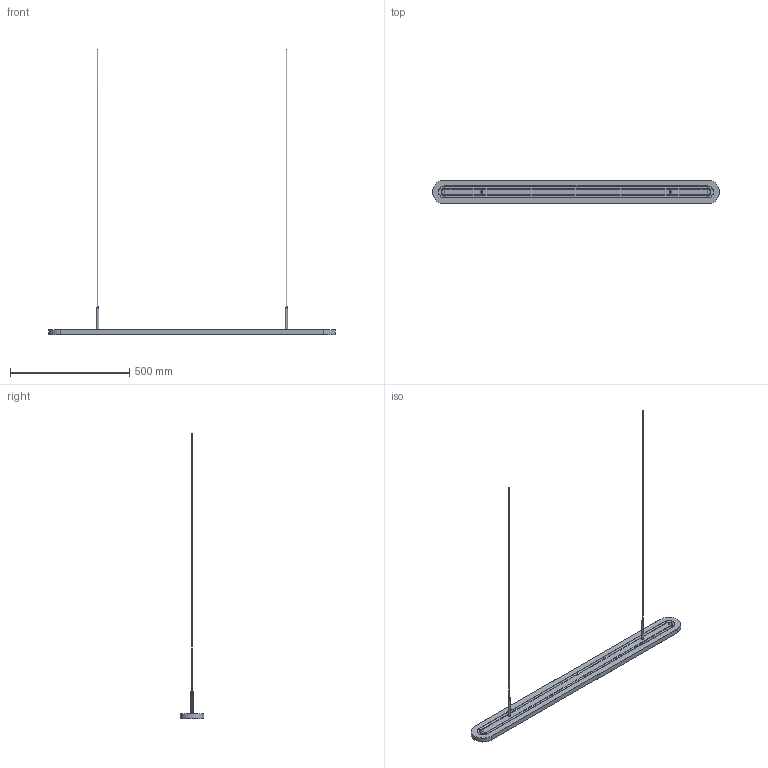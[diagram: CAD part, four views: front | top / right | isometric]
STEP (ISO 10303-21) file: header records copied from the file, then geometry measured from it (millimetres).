
FILE_DESCRIPTION(('HOOPS Exchange Step'),'2;1');
FILE_NAME('/Users/denyssokolov/Library/CloudStorage/GoogleDrive-svoyawork@gmail.com/Мій диск/Objects/PRESENTATION/46_FOG_lighting/NEW/FOG/fog_pill_1200/models/FOG_pill_1200.stp','2025-05-06T10:40:27+03:00',('denyssokolov'),('Unknown organisation'),'HOOPS Exchange 2024.2','HOOPS Exchange','Unknown authorisation');
FILE_SCHEMA( ('AP203_CONFIGURATION_CONTROLLED_3D_DESIGN_OF_MECHANICAL_PARTS_AND_ASSEMBLIES_MIM_LF') );
Length unit declared in the file: millimetre
Products named in the file (1): root
Bounding box: 1200 x 100 x 1193.36 mm (x, y, z)
Volume: 2073480.7 mm3; surface area: 556416.2 mm2
Topology: 5 solids, 13 shells, 481 faces, 1191 edges, 739 vertices
Faces by surface type: bspline 172, plane 139, cone 124, cylinder 42, sphere 4
Full cylindrical faces by diameter (mm): 1.998 x12, 2 x6, 3 x12, 8 x2, 10 x4
Entity records: 23335 total; most frequent: CARTESIAN_POINT 12796, ORIENTED_EDGE 2372, DIRECTION 1834, EDGE_CURVE 1187, VERTEX_POINT 739, AXIS2_PLACEMENT_3D 653, VECTOR 528, LINE 528
